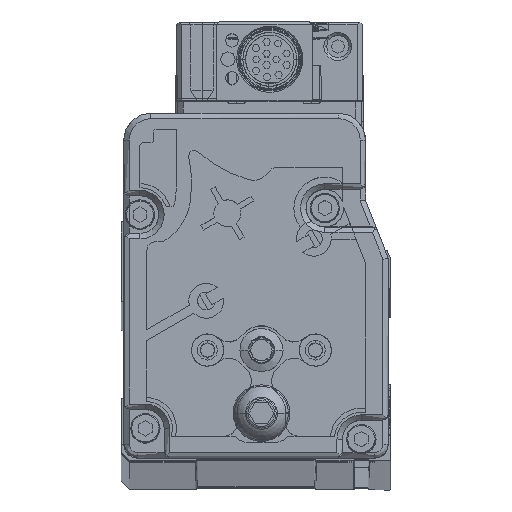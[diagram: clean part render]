
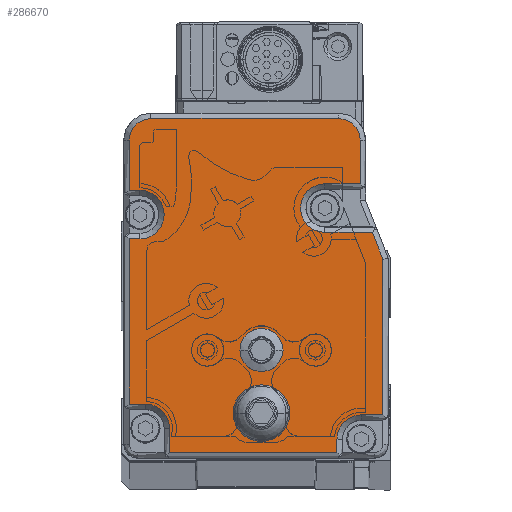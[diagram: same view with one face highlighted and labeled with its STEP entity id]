
A CAD part, top view. The second image highlights one B-rep face of the part: STEP entity #286670.
In plain terms, the highlighted planar face has unit normal (0, 0, 1).
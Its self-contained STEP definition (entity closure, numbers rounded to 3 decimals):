
#217870=CARTESIAN_POINT('',(-40.059,22.124,
1572.39));
#217880=VERTEX_POINT('',#217870);
#217910=CARTESIAN_POINT('',(-44.059,22.124,
1572.39));
#217920=DIRECTION('',(0.,0.,1.));
#217930=DIRECTION('',(1.,0.,0.));
#217940=AXIS2_PLACEMENT_3D('',#217910,#217920,#217930);
#217950=CIRCLE('',#217940,4.);
#217960=CARTESIAN_POINT('',(-48.059,22.124,
1572.39));
#217970=VERTEX_POINT('',#217960);
#217980=EDGE_CURVE('',#217970,#217880,#217950,.T.);
#227740=CARTESIAN_POINT('',(-39.056,10.421,
1572.39));
#227750=VERTEX_POINT('',#227740);
#227910=CARTESIAN_POINT('',(-49.056,10.421,
1572.39));
#227920=VERTEX_POINT('',#227910);
#227950=CARTESIAN_POINT('',(-44.056,10.421,
1572.39));
#227960=DIRECTION('',(0.,0.,1.));
#227970=DIRECTION('',(1.,0.,0.));
#227980=AXIS2_PLACEMENT_3D('',#227950,#227960,#227970);
#227990=CIRCLE('',#227980,5.);
#228000=EDGE_CURVE('',#227750,#227920,#227990,.T.);
#253750=CARTESIAN_POINT('',(-66.559,51.727,
1572.39));
#253760=DIRECTION('',(-1.,0.,0.));
#253770=VECTOR('',#253760,1.);
#253780=LINE('',#253750,#253770);
#253790=CARTESIAN_POINT('',(-66.559,51.727,
1572.39));
#253800=VERTEX_POINT('',#253790);
#253810=CARTESIAN_POINT('',(-68.559,51.727,
1572.39));
#253820=VERTEX_POINT('',#253810);
#253830=EDGE_CURVE('',#253800,#253820,#253780,.T.);
#255030=CARTESIAN_POINT('',(-66.559,47.227,
1572.39));
#255040=DIRECTION('',(0.,0.,1.));
#255050=DIRECTION('',(1.,0.,0.));
#255060=AXIS2_PLACEMENT_3D('',#255030,#255040,#255050);
#255070=CIRCLE('',#255060,4.5);
#255080=CARTESIAN_POINT('',(-66.559,42.727,
1572.39));
#255090=VERTEX_POINT('',#255080);
#255100=EDGE_CURVE('',#255090,#253800,#255070,.T.);
#257120=CARTESIAN_POINT('',(-30.059,3.124,
1572.39));
#257130=DIRECTION('',(-1.,0.,0.));
#257140=VECTOR('',#257130,1.);
#257150=LINE('',#257120,#257140);
#257160=CARTESIAN_POINT('',(-30.059,3.124,
1572.39));
#257170=VERTEX_POINT('',#257160);
#257180=CARTESIAN_POINT('',(-61.059,3.124,
1572.39));
#257190=VERTEX_POINT('',#257180);
#257200=EDGE_CURVE('',#257170,#257190,#257150,.T.);
#257690=CARTESIAN_POINT('',(-30.059,5.624,
1572.39));
#257700=DIRECTION('',(0.,-1.,0.));
#257710=VECTOR('',#257700,1.);
#257720=LINE('',#257690,#257710);
#257730=CARTESIAN_POINT('',(-30.059,5.624,
1572.39));
#257740=VERTEX_POINT('',#257730);
#257750=EDGE_CURVE('',#257740,#257170,#257720,.T.);
#258650=CARTESIAN_POINT('',(-32.309,48.424,
1572.39));
#258660=DIRECTION('',(0.,0.,1.));
#258670=DIRECTION('',(1.,0.,0.));
#258680=AXIS2_PLACEMENT_3D('',#258650,#258660,#258670);
#258690=CIRCLE('',#258680,4.5);
#258700=CARTESIAN_POINT('',(-32.309,52.924,
1572.39));
#258710=VERTEX_POINT('',#258700);
#258720=CARTESIAN_POINT('',(-32.309,43.924,
1572.39));
#258730=VERTEX_POINT('',#258720);
#258740=EDGE_CURVE('',#258710,#258730,#258690,.T.);
#259040=CARTESIAN_POINT('',(-32.309,43.924,
1572.39));
#259050=DIRECTION('',(1.,0.,0.));
#259060=VECTOR('',#259050,1.);
#259070=LINE('',#259040,#259060);
#259080=CARTESIAN_POINT('',(-23.499,43.924,
1572.39));
#259090=VERTEX_POINT('',#259080);
#259100=EDGE_CURVE('',#258730,#259090,#259070,.T.);
#260350=CARTESIAN_POINT('',(-23.499,43.924,
1572.39));
#260360=DIRECTION('',(0.362,-0.932,0.));
#260370=VECTOR('',#260360,1.);
#260380=LINE('',#260350,#260370);
#260390=CARTESIAN_POINT('',(-21.559,38.937,
1572.39));
#260400=VERTEX_POINT('',#260390);
#260410=EDGE_CURVE('',#259090,#260400,#260380,.T.);
#261780=CARTESIAN_POINT('',(-21.559,38.937,
1572.39));
#261790=DIRECTION('',(0.,-1.,0.));
#261800=VECTOR('',#261790,1.);
#261810=LINE('',#261780,#261800);
#261820=CARTESIAN_POINT('',(-21.559,10.124,
1572.39));
#261830=VERTEX_POINT('',#261820);
#261840=EDGE_CURVE('',#260400,#261830,#261810,.T.);
#263040=CARTESIAN_POINT('',(-21.559,10.124,
1572.39));
#263050=DIRECTION('',(-1.,0.,0.));
#263060=VECTOR('',#263050,1.);
#263070=LINE('',#263040,#263060);
#263080=CARTESIAN_POINT('',(-25.559,10.124,
1572.39));
#263090=VERTEX_POINT('',#263080);
#263100=EDGE_CURVE('',#261830,#263090,#263070,.T.);
#263420=CARTESIAN_POINT('',(-25.559,5.624,
1572.39));
#263430=DIRECTION('',(0.,0.,1.));
#263440=DIRECTION('',(1.,0.,0.));
#263450=AXIS2_PLACEMENT_3D('',#263420,#263430,#263440);
#263460=CIRCLE('',#263450,4.5);
#263470=EDGE_CURVE('',#263090,#257740,#263460,.T.);
#270680=CARTESIAN_POINT('',(-61.059,3.124,
1572.39));
#270690=DIRECTION('',(0.,1.,0.));
#270700=VECTOR('',#270690,1.);
#270710=LINE('',#270680,#270700);
#270720=CARTESIAN_POINT('',(-61.059,7.624,
1572.39));
#270730=VERTEX_POINT('',#270720);
#270740=EDGE_CURVE('',#257190,#270730,#270710,.T.);
#271000=CARTESIAN_POINT('',(-65.559,7.624,
1572.39));
#271010=DIRECTION('',(0.,0.,1.));
#271020=DIRECTION('',(1.,0.,0.));
#271030=AXIS2_PLACEMENT_3D('',#271000,#271010,#271020);
#271040=CIRCLE('',#271030,4.5);
#271050=CARTESIAN_POINT('',(-65.559,12.124,
1572.39));
#271060=VERTEX_POINT('',#271050);
#271070=EDGE_CURVE('',#270730,#271060,#271040,.T.);
#271320=CARTESIAN_POINT('',(-65.559,12.124,
1572.39));
#271330=DIRECTION('',(-1.,0.,0.));
#271340=VECTOR('',#271330,1.);
#271350=LINE('',#271320,#271340);
#271360=CARTESIAN_POINT('',(-68.559,12.124,
1572.39));
#271370=VERTEX_POINT('',#271360);
#271380=EDGE_CURVE('',#271060,#271370,#271350,.T.);
#275120=CARTESIAN_POINT('',(-68.559,12.124,
1572.39));
#275130=DIRECTION('',(0.,1.,0.));
#275140=VECTOR('',#275130,1.);
#275150=LINE('',#275120,#275140);
#275160=CARTESIAN_POINT('',(-68.559,42.727,
1572.39));
#275170=VERTEX_POINT('',#275160);
#275180=EDGE_CURVE('',#271370,#275170,#275150,.T.);
#276400=CARTESIAN_POINT('',(-68.559,42.727,
1572.39));
#276410=DIRECTION('',(1.,0.,0.));
#276420=VECTOR('',#276410,1.);
#276430=LINE('',#276400,#276420);
#276440=EDGE_CURVE('',#275170,#255090,#276430,.T.);
#277670=CARTESIAN_POINT('',(-68.559,51.727,
1572.39));
#277680=DIRECTION('',(0.,1.,0.));
#277690=VECTOR('',#277680,1.);
#277700=LINE('',#277670,#277690);
#277710=CARTESIAN_POINT('',(-68.559,61.024,
1572.39));
#277720=VERTEX_POINT('',#277710);
#277730=EDGE_CURVE('',#253820,#277720,#277700,.T.);
#278060=CARTESIAN_POINT('',(-64.559,61.024,
1572.39));
#278070=DIRECTION('',(0.,0.,-1.));
#278080=DIRECTION('',(-1.,0.,0.));
#278090=AXIS2_PLACEMENT_3D('',#278060,#278070,#278080);
#278100=CIRCLE('',#278090,4.);
#278110=CARTESIAN_POINT('',(-64.559,65.024,
1572.39));
#278120=VERTEX_POINT('',#278110);
#278130=EDGE_CURVE('',#277720,#278120,#278100,.T.);
#278450=CARTESIAN_POINT('',(-64.559,65.024,
1572.39));
#278460=DIRECTION('',(1.,0.,0.));
#278470=VECTOR('',#278460,1.);
#278480=LINE('',#278450,#278470);
#278490=CARTESIAN_POINT('',(-29.759,65.024,
1572.39));
#278500=VERTEX_POINT('',#278490);
#278510=EDGE_CURVE('',#278120,#278500,#278480,.T.);
#278950=CARTESIAN_POINT('',(-25.759,61.024,
1572.39));
#278960=VERTEX_POINT('',#278950);
#278990=CARTESIAN_POINT('',(-29.759,61.024,
1572.39));
#279000=DIRECTION('',(0.,0.,-1.));
#279010=DIRECTION('',(-1.,0.,0.));
#279020=AXIS2_PLACEMENT_3D('',#278990,#279000,#279010);
#279030=CIRCLE('',#279020,4.);
#279040=EDGE_CURVE('',#278500,#278960,#279030,.T.);
#279220=CARTESIAN_POINT('',(-25.759,61.024,
1572.39));
#279230=DIRECTION('',(0.,-1.,0.));
#279240=VECTOR('',#279230,1.);
#279250=LINE('',#279220,#279240);
#279260=CARTESIAN_POINT('',(-25.759,52.924,
1572.39));
#279270=VERTEX_POINT('',#279260);
#279280=EDGE_CURVE('',#278960,#279270,#279250,.T.);
#279630=CARTESIAN_POINT('',(-25.759,52.924,
1572.39));
#279640=DIRECTION('',(-1.,0.,0.));
#279650=VECTOR('',#279640,1.);
#279660=LINE('',#279630,#279650);
#279670=EDGE_CURVE('',#279270,#258710,#279660,.T.);
#286290=CARTESIAN_POINT('',(-45.059,34.074,
1572.39));
#286300=DIRECTION('',(0.,0.,1.));
#286310=DIRECTION('',(1.,0.,0.));
#286320=AXIS2_PLACEMENT_3D('',#286290,#286300,#286310);
#286330=PLANE('',#286320);
#286340=ORIENTED_EDGE('',*,*,#270740,.F.);
#286350=ORIENTED_EDGE('',*,*,#271070,.F.);
#286360=ORIENTED_EDGE('',*,*,#271380,.F.);
#286370=ORIENTED_EDGE('',*,*,#275180,.F.);
#286380=ORIENTED_EDGE('',*,*,#276440,.F.);
#286390=ORIENTED_EDGE('',*,*,#255100,.F.);
#286400=ORIENTED_EDGE('',*,*,#253830,.F.);
#286410=ORIENTED_EDGE('',*,*,#277730,.F.);
#286420=ORIENTED_EDGE('',*,*,#278130,.F.);
#286430=ORIENTED_EDGE('',*,*,#278510,.F.);
#286440=ORIENTED_EDGE('',*,*,#279040,.F.);
#286450=ORIENTED_EDGE('',*,*,#279280,.F.);
#286460=ORIENTED_EDGE('',*,*,#279670,.F.);
#286470=ORIENTED_EDGE('',*,*,#258740,.F.);
#286480=ORIENTED_EDGE('',*,*,#259100,.F.);
#286490=ORIENTED_EDGE('',*,*,#260410,.F.);
#286500=ORIENTED_EDGE('',*,*,#261840,.F.);
#286510=ORIENTED_EDGE('',*,*,#263100,.F.);
#286520=ORIENTED_EDGE('',*,*,#263470,.F.);
#286530=ORIENTED_EDGE('',*,*,#257750,.F.);
#286540=ORIENTED_EDGE('',*,*,#257200,.F.);
#286550=EDGE_LOOP('',(#286540,#286530,#286520,#286510,#286500,#286490,
#286480,#286470,#286460,#286450,#286440,#286430,#286420,#286410,#286400,
#286390,#286380,#286370,#286360,#286350,#286340));
#286560=FACE_OUTER_BOUND('',#286550,.T.);
#286570=EDGE_CURVE('',#227920,#227750,#227990,.T.);
#286580=ORIENTED_EDGE('',*,*,#286570,.F.);
#286590=ORIENTED_EDGE('',*,*,#228000,.F.);
#286600=EDGE_LOOP('',(#286590,#286580));
#286610=FACE_BOUND('',#286600,.T.);
#286620=EDGE_CURVE('',#217880,#217970,#217950,.T.);
#286630=ORIENTED_EDGE('',*,*,#286620,.F.);
#286640=ORIENTED_EDGE('',*,*,#217980,.F.);
#286650=EDGE_LOOP('',(#286640,#286630));
#286660=FACE_BOUND('',#286650,.T.);
#286670=ADVANCED_FACE('',(#286560,#286610,#286660),#286330,.T.);
